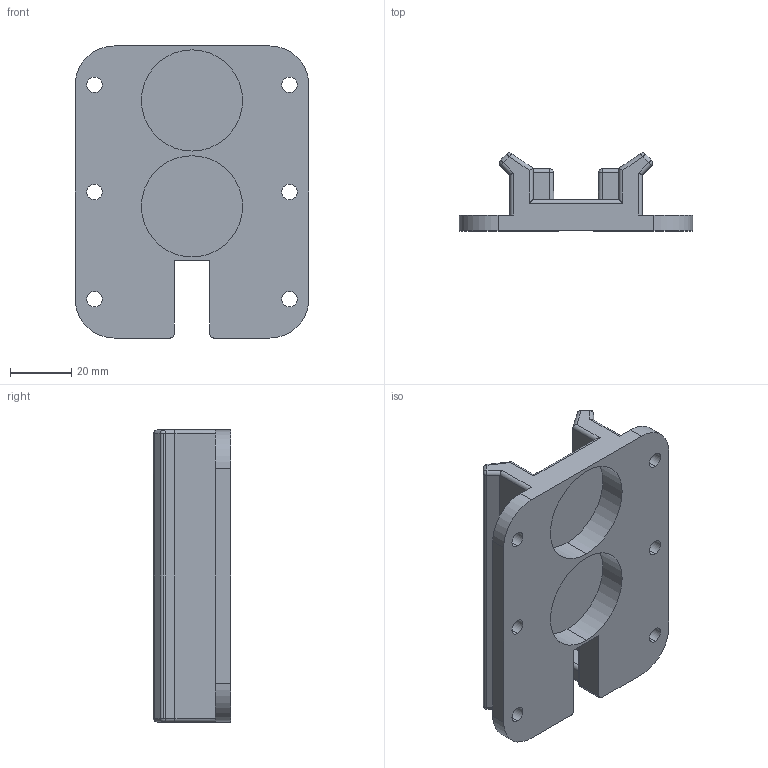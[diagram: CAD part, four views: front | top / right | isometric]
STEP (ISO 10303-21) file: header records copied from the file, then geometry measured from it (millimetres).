
FILE_DESCRIPTION (( 'STEP AP203' ), '1' );
FILE_NAME ('Quickdraw V3.STEP', '2021-11-14T17:59:01', ( '' ), ( '' ), 'SwSTEP 2.0', 'SolidWorks 2021', '' );
FILE_SCHEMA (( 'CONFIG_CONTROL_DESIGN' ));
Length unit declared in the file: inch
Products named in the file (1): Quickdraw V3
Bounding box: 76.2 x 25.34 x 95.25 mm (x, y, z)
Volume: 60227.8 mm3; surface area: 25510.7 mm2
Topology: 1 solids, 1 shells, 106 faces, 261 edges, 147 vertices
Faces by surface type: cylinder 61, plane 30, sphere 15
Entity records: 3076 total; most frequent: CARTESIAN_POINT 547, DIRECTION 539, ORIENTED_EDGE 494, EDGE_CURVE 247, AXIS2_PLACEMENT_3D 201, VERTEX_POINT 145, VECTOR 137, LINE 137
